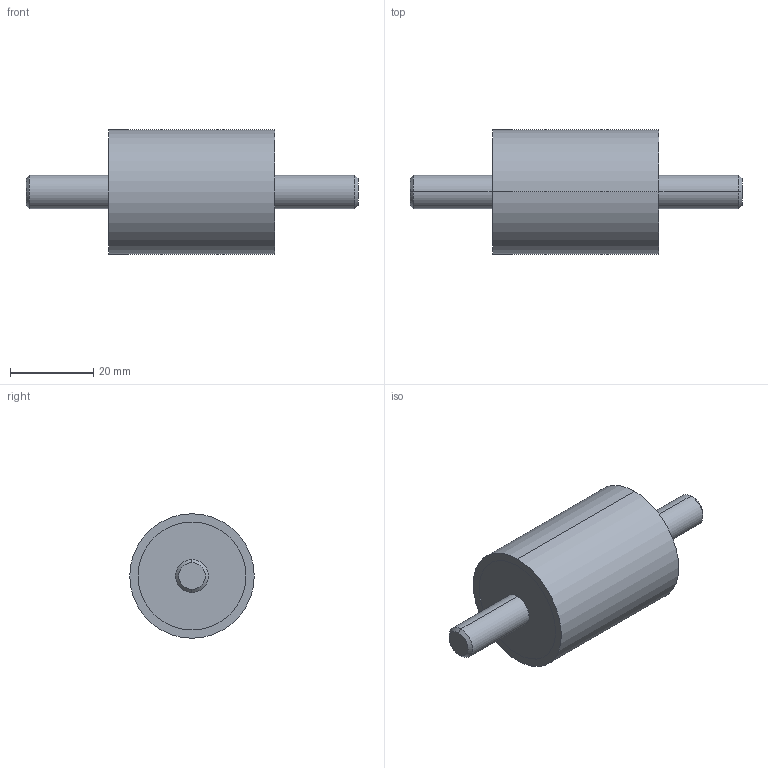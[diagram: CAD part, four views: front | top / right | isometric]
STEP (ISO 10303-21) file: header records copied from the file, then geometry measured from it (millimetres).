
FILE_DESCRIPTION (( 'STEP AP214' ), '1' );
FILE_NAME ('351-30-40-M8-SS-55.step', '2025-07-23T09:53:24', ( '' ), ( '' ), 'SwSTEP 2.0', 'SolidWorks 2022', '' );
FILE_SCHEMA (( 'AUTOMOTIVE_DESIGN' ));
Length unit declared in the file: millimetre
Products named in the file (1): 351-30-40-M8-SS-55
Bounding box: 80 x 30 x 30 mm (x, y, z)
Volume: 30260.3 mm3; surface area: 6165.9 mm2
Topology: 1 solids, 1 shells, 20 faces, 38 edges, 24 vertices
Faces by surface type: cylinder 10, plane 6, cone 4
Entity records: 636 total; most frequent: DIRECTION 104, CARTESIAN_POINT 83, ORIENTED_EDGE 76, AXIS2_PLACEMENT_3D 45, EDGE_CURVE 38, CIRCLE 24, VERTEX_POINT 24, EDGE_LOOP 24
